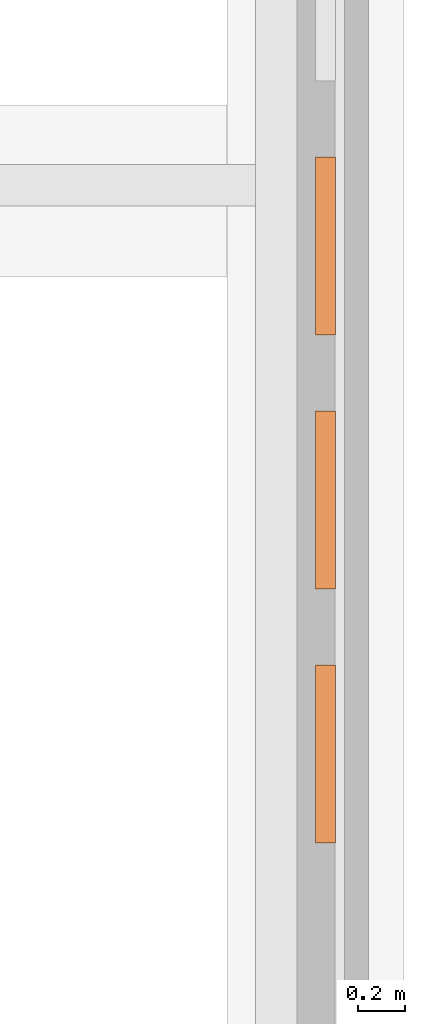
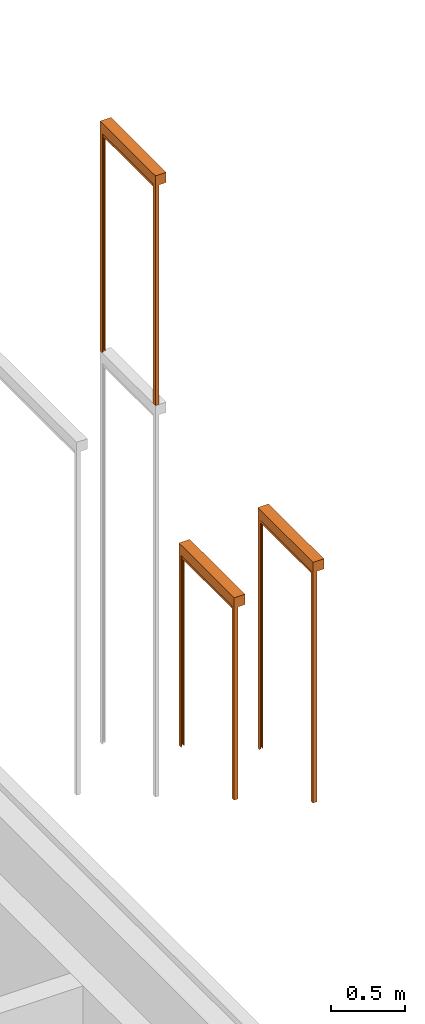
# One storey, part 14 of 15: 3 proxies.
"""IFC2X3 building model written with IfcOpenShell, lengths in millimetres."""

from ifc_helpers import new_model, entity, si_unit, converted_unit, derived_unit, direction, frame, frame_2d, origin, place, context, subcontext, project, spatial, polyline, circle_curve, parameter, trimmed, segment, composite_curve, rectangle, outline, extrude, source, transform, mapped, material, material_list, type_object, type_shapes, element, save


model = new_model("IFC2X3")

# Units and contexts
model_context = context("Model", 3, precision=0.01, world=origin(), true_north=direction((6.123031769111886e-17, 1.0)))
body_context = subcontext(model_context, "Body", "Model", "MODEL_VIEW")
ifc_project = project(units=[si_unit("LENGTHUNIT", "METRE", prefix="MILLI"), si_unit("AREAUNIT", "SQUARE_METRE"), si_unit("VOLUMEUNIT", "CUBIC_METRE"), converted_unit("PLANEANGLEUNIT", "DEGREE", entity("IfcRatioMeasure", 0.017453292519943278), si_unit("PLANEANGLEUNIT", "RADIAN"), dimensions=[0, 0, 0, 0, 0, 0, 0]), si_unit("MASSUNIT", "GRAM", prefix="KILO"), derived_unit("MASSDENSITYUNIT", [(si_unit("MASSUNIT", "GRAM", prefix="KILO"), 1), (si_unit("LENGTHUNIT", "METRE"), -3)]), derived_unit("IONCONCENTRATIONUNIT", [(si_unit("MASSUNIT", "GRAM", prefix="KILO"), 1), (si_unit("LENGTHUNIT", "METRE"), -3)]), derived_unit("MOMENTOFINERTIAUNIT", [(si_unit("LENGTHUNIT", "METRE"), 4)]), si_unit("TIMEUNIT", "SECOND"), si_unit("FREQUENCYUNIT", "HERTZ"), si_unit("THERMODYNAMICTEMPERATUREUNIT", "DEGREE_CELSIUS"), derived_unit("THERMALTRANSMITTANCEUNIT", [(si_unit("MASSUNIT", "GRAM", prefix="KILO"), 1), (si_unit("THERMODYNAMICTEMPERATUREUNIT", "KELVIN"), -1), (si_unit("TIMEUNIT", "SECOND"), -3)]), derived_unit("THERMALCONDUCTANCEUNIT", [(si_unit("MASSUNIT", "GRAM", prefix="KILO"), 1), (si_unit("THERMODYNAMICTEMPERATUREUNIT", "KELVIN"), -1), (si_unit("TIMEUNIT", "SECOND"), -3), (si_unit("LENGTHUNIT", "METRE"), 1)]), derived_unit("VOLUMETRICFLOWRATEUNIT", [(si_unit("LENGTHUNIT", "METRE"), 3), (si_unit("TIMEUNIT", "SECOND"), -1)]), derived_unit("MASSFLOWRATEUNIT", [(si_unit("MASSUNIT", "GRAM", prefix="KILO"), 1), (si_unit("TIMEUNIT", "SECOND"), -1)]), derived_unit("ROTATIONALFREQUENCYUNIT", [(si_unit("TIMEUNIT", "SECOND"), -1)]), si_unit("ELECTRICCURRENTUNIT", "AMPERE"), si_unit("ELECTRICVOLTAGEUNIT", "VOLT"), si_unit("POWERUNIT", "WATT"), si_unit("FORCEUNIT", "NEWTON", prefix="KILO"), si_unit("ILLUMINANCEUNIT", "LUX"), si_unit("LUMINOUSFLUXUNIT", "LUMEN"), si_unit("LUMINOUSINTENSITYUNIT", "CANDELA"), derived_unit("USERDEFINED", [(si_unit("MASSUNIT", "GRAM", prefix="KILO"), -1), (si_unit("LENGTHUNIT", "METRE"), -2), (si_unit("TIMEUNIT", "SECOND"), 3), (si_unit("LUMINOUSFLUXUNIT", "LUMEN"), 1)]), derived_unit("USERDEFINED", [(si_unit("MASSUNIT", "GRAM", prefix="KILO"), 1), (si_unit("TIMEUNIT", "SECOND"), -3), (si_unit("LENGTHUNIT", "METRE"), 3), (si_unit("ELECTRICCURRENTUNIT", "AMPERE"), -2)]), derived_unit("SOUNDPOWERUNIT", [(si_unit("MASSUNIT", "GRAM", prefix="KILO"), 1), (si_unit("TIMEUNIT", "SECOND"), -3), (si_unit("LENGTHUNIT", "METRE"), 2)]), derived_unit("SOUNDPRESSUREUNIT", [(si_unit("MASSUNIT", "GRAM", prefix="KILO"), 1), (si_unit("LENGTHUNIT", "METRE"), -1), (si_unit("TIMEUNIT", "SECOND"), -2)]), derived_unit("LINEARVELOCITYUNIT", [(si_unit("LENGTHUNIT", "METRE"), 1), (si_unit("TIMEUNIT", "SECOND"), -1)]), si_unit("PRESSUREUNIT", "PASCAL"), derived_unit("USERDEFINED", [(si_unit("MASSUNIT", "GRAM", prefix="KILO"), 1), (si_unit("LENGTHUNIT", "METRE"), -2), (si_unit("TIMEUNIT", "SECOND"), -2)]), derived_unit("LINEARFORCEUNIT", [(si_unit("MASSUNIT", "GRAM", prefix="KILO"), 1), (si_unit("TIMEUNIT", "SECOND"), -2)]), derived_unit("PLANARFORCEUNIT", [(si_unit("MASSUNIT", "GRAM", prefix="KILO"), 1), (si_unit("LENGTHUNIT", "METRE"), -1), (si_unit("TIMEUNIT", "SECOND"), -2)]), derived_unit("SPECIFICHEATCAPACITYUNIT", [(si_unit("THERMODYNAMICTEMPERATUREUNIT", "KELVIN"), -1), (si_unit("LENGTHUNIT", "METRE"), 2), (si_unit("TIMEUNIT", "SECOND"), -2)]), derived_unit("HEATINGVALUEUNIT", [(si_unit("LENGTHUNIT", "METRE"), 2), (si_unit("TIMEUNIT", "SECOND"), -2)]), derived_unit("VAPORPERMEABILITYUNIT", [(si_unit("LENGTHUNIT", "METRE"), -1), (si_unit("TIMEUNIT", "SECOND"), 1)]), derived_unit("DYNAMICVISCOSITYUNIT", [(si_unit("MASSUNIT", "GRAM", prefix="KILO"), 1), (si_unit("TIMEUNIT", "SECOND"), -1), (si_unit("LENGTHUNIT", "METRE"), -1)]), derived_unit("THERMALEXPANSIONCOEFFICIENTUNIT", [(si_unit("THERMODYNAMICTEMPERATUREUNIT", "KELVIN"), -1)]), derived_unit("MODULUSOFELASTICITYUNIT", [(si_unit("MASSUNIT", "GRAM", prefix="KILO"), 1), (si_unit("LENGTHUNIT", "METRE"), -1), (si_unit("TIMEUNIT", "SECOND"), -2)]), derived_unit("ISOTHERMALMOISTURECAPACITYUNIT", [(si_unit("LENGTHUNIT", "METRE"), 3), (si_unit("MASSUNIT", "GRAM", prefix="KILO"), -1)]), derived_unit("MOISTUREDIFFUSIVITYUNIT", [(si_unit("TIMEUNIT", "SECOND"), -1), (si_unit("LENGTHUNIT", "METRE"), 2)])], contexts=[model_context])

# Site, building, storey
site_placement = place(None, frame((0.0, 300.0, 0.0)))
site = spatial("IfcSite", under=ifc_project, at=site_placement, Name="<Kadastrale nummers>", CompositionType="ELEMENT")
building_placement = place(site_placement, origin())
building = spatial("IfcBuilding", under=site, at=building_placement, CompositionType="ELEMENT")
storey_placement = place(building_placement, frame((0.0, 0.0, -1570.0)))
storey = spatial("IfcBuildingStorey", under=building, at=storey_placement, Name="-1 fundering", CompositionType="ELEMENT", Elevation=-1570.0)

# Proxies
ifc_material_1 = material(Name="STAAL_RAL 7006")
ifc_material_2 = material(Name="<Unnamed>")
ifc_material_list = material_list([ifc_material_1, ifc_material_2])
building_element_proxy_type_1 = type_object("IfcBuildingElementProxyType", Name="31_DAT_Screen_zonwering_bak85:31_DAT_Screen_zonwering_bak85", PredefinedType="NOTDEFINED", material=ifc_material_list)
shared_shape_1 = source(origin(), body_context, "Body", "SweptSolid", [
    extrude(outline(polyline([(-60.69864841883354, -53.573897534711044), (20.695945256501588, -53.573897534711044), (20.695945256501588, 1.1216926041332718), (22.501351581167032, 1.1216926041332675), (22.501351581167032, 24.626102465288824), (17.501351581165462, 24.626102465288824), (17.501351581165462, 27.826102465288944), (-60.69864841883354, 27.826102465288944), (-60.69864841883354, -53.573897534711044)])), frame((748.0, -29.62610246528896, 3177.501351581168), z_axis=(1.0, 0.0, 0.0), x_axis=(0.0, 0.0, -1.0)), (0.0, 0.0, 1.0), 1.9999999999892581),
    extrude(outline(polyline([(-55.83243227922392, -51.08259835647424), (29.167567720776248, -51.08259835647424), (29.167567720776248, 5.412991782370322), (27.362161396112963, 5.412991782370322), (27.362161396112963, -49.28259835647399), (-54.03243227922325, -49.28259835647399), (-54.03243227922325, 32.117401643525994), (24.1675677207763, 32.117401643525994), (24.1675677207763, 28.91740164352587), (29.167567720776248, 28.91740164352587), (29.167567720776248, 33.917401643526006), (-55.83243227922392, 33.917401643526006), (-55.83243227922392, -51.08259835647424)])), frame((0.0, -33.917401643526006, 3184.1675677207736), z_axis=(1.0, 0.0, 0.0), x_axis=(0.0, 0.0, -1.0)), (0.0, 0.0, 1.0), 749.9999999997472),
    extrude(outline(polyline([(-60.69864841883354, -53.573897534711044), (20.695945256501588, -53.573897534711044), (20.695945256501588, 1.1216926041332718), (22.501351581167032, 1.1216926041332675), (22.501351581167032, 24.626102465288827), (17.501351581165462, 24.626102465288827), (17.501351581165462, 27.826102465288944), (-60.69864841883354, 27.826102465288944), (-60.69864841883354, -53.573897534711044)])), frame((0.0, -29.62610246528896, 3177.501351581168), z_axis=(1.0, 0.0, 0.0), x_axis=(0.0, 0.0, -1.0)), (0.0, 0.0, 1.0), 1.999999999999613),
    extrude(rectangle(XDim=709.9999999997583, YDim=1.163311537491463, at=frame_2d((-2.842170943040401e-14, -2.1094237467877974e-15), x_axis=(1.0, 0.0))), frame((375.0, -20.037293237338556, 3148.0091460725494)), (0.0, 0.0, 1.0), 6.990853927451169),
    extrude(outline(composite_curve([segment(polyline([(-7.502327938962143, -23.023758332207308), (7.497672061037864, -23.023758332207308)]), True, "CONTINUOUS"), segment(trimmed(circle_curve(frame_2d((7.497672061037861, -21.523758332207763), x_axis=(0.0, -1.0)), 1.4999999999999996), [parameter(359.99999999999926)], [parameter(90.00000000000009)], True, "PARAMETER"), True, "CONTINUOUS"), segment(polyline([(8.997672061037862, -21.523758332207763), (8.997672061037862, 8.976241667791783)]), True, "CONTINUOUS"), segment(trimmed(circle_curve(frame_2d((5.99767206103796, 8.976241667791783), x_axis=(0.0, -1.0)), 3.0), [parameter(90.00000000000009)], [parameter(172.84454900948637)], True, "PARAMETER"), True, "CONTINUOUS"), segment(polyline([(6.371357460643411, 11.952877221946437), (2.232090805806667, 12.470504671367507)]), True, "CONTINUOUS"), segment(trimmed(circle_curve(frame_2d((2.1399803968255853, 11.733933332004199), x_axis=(0.0, -1.0)), 0.7423083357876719), [parameter(172.87199730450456)], [parameter(323.5235343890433)], True, "PARAMETER"), True, "CONTINUOUS"), segment(trimmed(circle_curve(frame_2d((-0.0023279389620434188, 8.976241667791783), x_axis=(0.0, -1.0)), 2.75), [parameter(217.47327986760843)], [parameter(141.78969998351)], True, "PARAMETER"), False, "CONTINUOUS"), segment(trimmed(circle_curve(frame_2d((-2.144636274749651, 11.733933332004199), x_axis=(0.0, -1.0)), 0.7423083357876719), [parameter(39.207114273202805)], [parameter(187.12800269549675)], True, "PARAMETER"), True, "CONTINUOUS"), segment(polyline([(-2.2367466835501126, 12.470504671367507), (-6.376013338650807, 11.95287722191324)]), True, "CONTINUOUS"), segment(trimmed(circle_curve(frame_2d((-6.002327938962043, 8.976241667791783), x_axis=(0.0, -1.0)), 3.0), [parameter(187.1554509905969)], [parameter(269.9999999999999)], True, "PARAMETER"), True, "CONTINUOUS"), segment(polyline([(-9.002327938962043, 8.976241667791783), (-9.002327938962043, -21.523758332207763)]), True, "CONTINUOUS"), segment(trimmed(circle_curve(frame_2d((-7.502327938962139, -21.523758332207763), x_axis=(0.0, -1.0)), 1.5000000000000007), [parameter(269.9999999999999)], [parameter(359.9999999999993)], True, "PARAMETER"), True, "CONTINUOUS")], self_intersect=False)), frame((20.0, -19.997672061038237, 3141.0329044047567), z_axis=(1.0, 0.0, 0.0), x_axis=(0.0, 1.0, 0.0)), (0.0, 0.0, 1.0), 709.999999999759),
    extrude(outline(polyline([(-14.638298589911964, -16.23157441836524), (-13.138298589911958, -16.23157441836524), (-13.138298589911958, 12.23272922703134), (-6.116685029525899, 12.23272922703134), (-6.116685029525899, -6.231574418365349), (-1.116685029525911, -6.231574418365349), (-1.116685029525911, -4.769580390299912), (-4.579546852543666, -4.769580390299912), (-4.579546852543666, 12.232729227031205), (13.86611127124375, 12.232729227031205), (13.86611127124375, -4.769580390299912), (10.36170141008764, -4.769580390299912), (10.36170141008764, -6.2315744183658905), (15.36170141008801, -6.2315744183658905), (15.36170141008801, 13.768425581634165), (-14.638298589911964, 13.768425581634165), (-14.638298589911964, -16.23157441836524)])), frame((736.2315744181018, -14.638298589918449, 1335.0), z_axis=(0.0, 0.0, 1.0), x_axis=(0.0, -1.0, 0.0)), (0.0, 0.0, 1.0), 1820.0000000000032),
    extrude(outline(polyline([(-16.231574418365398, -14.638298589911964), (13.768425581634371, -14.638298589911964), (13.76842558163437, 15.361701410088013), (-6.231574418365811, 15.361701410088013), (-6.231574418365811, 10.361701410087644), (-4.769580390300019, 10.361701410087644), (-4.769580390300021, 13.866111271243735), (12.2327292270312, 13.866111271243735), (12.2327292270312, -4.57954685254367), (-4.769580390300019, -4.57954685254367), (-4.769580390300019, -1.1166850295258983), (-6.231574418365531, -1.1166850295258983), (-6.231574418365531, -6.116685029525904), (12.232729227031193, -6.116685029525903), (12.232729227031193, -13.138298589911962), (-16.231574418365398, -13.138298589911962), (-16.231574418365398, -14.638298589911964)])), frame((13.768425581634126, -14.638298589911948, 1335.0), z_axis=(0.0, 0.0, 1.0), x_axis=(-1.0, 0.0, 0.0)), (0.0, 0.0, 1.0), 1820.0000000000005),
])
type_shapes(building_element_proxy_type_1, [shared_shape_1])
proxy_1_placement = place(storey_placement, frame((48751.0, 37480.0, 4815.0), z_axis=(0.0, 0.0, 1.0), x_axis=(0.0, 1.0, 0.0)))
element("IfcBuildingElementProxy", 1, at=proxy_1_placement, inside=storey, type_object=building_element_proxy_type_1, material=ifc_material_list, Name="31_DAT_Screen_zonwering_bak85:31_DAT_Screen_zonwering_bak85", ObjectType="31_DAT_Screen_zonwering_bak85:31_DAT_Screen_zonwering_bak85", context=body_context, shape_type="MappedRepresentation", body=[
    mapped(shared_shape_1, transform((0.0, 0.0, 0.0), scale=1.0)),
])
building_element_proxy_type_2 = type_object("IfcBuildingElementProxyType", Name="31_DAT_Screen_zonwering_bak85:31_DAT_Screen_zonwering_bak85", PredefinedType="NOTDEFINED", material=ifc_material_list)
shared_shape_2 = source(origin(), body_context, "Body", "SweptSolid", [
    extrude(outline(polyline([(-60.69864841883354, -53.573897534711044), (20.695945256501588, -53.573897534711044), (20.695945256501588, 1.1216926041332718), (22.501351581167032, 1.1216926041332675), (22.501351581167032, 24.626102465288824), (17.501351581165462, 24.626102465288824), (17.501351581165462, 27.826102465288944), (-60.69864841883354, 27.826102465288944), (-60.69864841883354, -53.573897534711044)])), frame((748.0, -29.62610246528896, 3574.5013515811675), z_axis=(1.0, 0.0, 0.0), x_axis=(0.0, 0.0, -1.0)), (0.0, 0.0, 1.0), 1.9999999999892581),
    extrude(outline(polyline([(-55.83243227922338, -51.08259835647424), (29.167567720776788, -51.08259835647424), (29.167567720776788, 5.412991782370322), (27.362161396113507, 5.412991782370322), (27.362161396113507, -49.28259835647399), (-54.032432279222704, -49.28259835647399), (-54.032432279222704, 32.117401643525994), (24.16756772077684, 32.117401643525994), (24.16756772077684, 28.91740164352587), (29.167567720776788, 28.91740164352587), (29.167567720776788, 33.917401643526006), (-55.83243227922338, 33.917401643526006), (-55.83243227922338, -51.08259835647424)])), frame((0.0, -33.917401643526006, 3581.167567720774), z_axis=(1.0, 0.0, 0.0), x_axis=(0.0, 0.0, -1.0)), (0.0, 0.0, 1.0), 750.0000000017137),
    extrude(outline(polyline([(-60.69864841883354, -53.573897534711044), (20.695945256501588, -53.573897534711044), (20.695945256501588, 1.1216926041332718), (22.501351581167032, 1.1216926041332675), (22.501351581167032, 24.626102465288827), (17.501351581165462, 24.626102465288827), (17.501351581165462, 27.826102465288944), (-60.69864841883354, 27.826102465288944), (-60.69864841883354, -53.573897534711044)])), frame((0.0, -29.62610246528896, 3574.5013515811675), z_axis=(1.0, 0.0, 0.0), x_axis=(0.0, 0.0, -1.0)), (0.0, 0.0, 1.0), 1.999999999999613),
    extrude(rectangle(XDim=710.0000000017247, YDim=1.163311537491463, at=frame_2d((-5.684341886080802e-14, -2.1094237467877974e-15), x_axis=(1.0, 0.0))), frame((375.0, -20.037293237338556, 3545.8)), (0.0, 0.0, 1.0), 6.200000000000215),
    extrude(outline(composite_curve([segment(polyline([(-7.502327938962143, -23.023758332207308), (7.497672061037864, -23.023758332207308)]), True, "CONTINUOUS"), segment(trimmed(circle_curve(frame_2d((7.497672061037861, -21.523758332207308), x_axis=(0.0, -1.0)), 1.4999999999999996), [parameter(359.99999999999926)], [parameter(90.00000000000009)], True, "PARAMETER"), True, "CONTINUOUS"), segment(polyline([(8.997672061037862, -21.523758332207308), (8.997672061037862, 8.976241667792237)]), True, "CONTINUOUS"), segment(trimmed(circle_curve(frame_2d((5.99767206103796, 8.976241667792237), x_axis=(0.0, -1.0)), 3.0), [parameter(90.00000000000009)], [parameter(172.84454900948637)], True, "PARAMETER"), True, "CONTINUOUS"), segment(polyline([(6.371357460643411, 11.952877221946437), (2.232090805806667, 12.470504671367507)]), True, "CONTINUOUS"), segment(trimmed(circle_curve(frame_2d((2.1399803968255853, 11.733933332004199), x_axis=(0.0, -1.0)), 0.7423083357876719), [parameter(172.87199730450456)], [parameter(323.5235343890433)], True, "PARAMETER"), True, "CONTINUOUS"), segment(trimmed(circle_curve(frame_2d((-0.0023279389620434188, 8.976241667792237), x_axis=(0.0, -1.0)), 2.75), [parameter(217.47327986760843)], [parameter(141.78969998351)], True, "PARAMETER"), False, "CONTINUOUS"), segment(trimmed(circle_curve(frame_2d((-2.144636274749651, 11.733933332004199), x_axis=(0.0, -1.0)), 0.7423083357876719), [parameter(39.207114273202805)], [parameter(187.12800269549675)], True, "PARAMETER"), True, "CONTINUOUS"), segment(polyline([(-2.2367466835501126, 12.470504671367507), (-6.376013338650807, 11.95287722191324)]), True, "CONTINUOUS"), segment(trimmed(circle_curve(frame_2d((-6.002327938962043, 8.976241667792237), x_axis=(0.0, -1.0)), 3.0), [parameter(187.1554509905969)], [parameter(269.9999999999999)], True, "PARAMETER"), True, "CONTINUOUS"), segment(polyline([(-9.002327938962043, 8.976241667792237), (-9.002327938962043, -21.523758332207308)]), True, "CONTINUOUS"), segment(trimmed(circle_curve(frame_2d((-7.502327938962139, -21.523758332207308), x_axis=(0.0, -1.0)), 1.5000000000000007), [parameter(269.9999999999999)], [parameter(359.9999999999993)], True, "PARAMETER"), True, "CONTINUOUS")], self_intersect=False)), frame((20.0, -19.997672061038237, 3538.823758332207), z_axis=(1.0, 0.0, 0.0), x_axis=(0.0, 1.0, 0.0)), (0.0, 0.0, 1.0), 710.0000000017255),
    extrude(outline(polyline([(-14.638298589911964, -16.23157441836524), (-13.138298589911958, -16.23157441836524), (-13.138298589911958, 12.23272922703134), (-6.116685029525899, 12.23272922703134), (-6.116685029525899, -6.231574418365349), (-1.116685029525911, -6.231574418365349), (-1.116685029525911, -4.769580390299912), (-4.579546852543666, -4.769580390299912), (-4.579546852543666, 12.232729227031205), (13.86611127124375, 12.232729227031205), (13.86611127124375, -4.769580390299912), (10.36170141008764, -4.769580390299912), (10.36170141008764, -6.2315744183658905), (15.36170141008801, -6.2315744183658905), (15.36170141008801, 13.768425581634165), (-14.638298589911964, 13.768425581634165), (-14.638298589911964, -16.23157441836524)])), frame((736.2315744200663, -14.638298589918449, 1960.0), z_axis=(0.0, 0.0, 1.0), x_axis=(0.0, -1.0, 0.0)), (0.0, 0.0, 1.0), 1592.0000000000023),
    extrude(outline(polyline([(-16.231574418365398, -14.638298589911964), (13.768425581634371, -14.638298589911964), (13.76842558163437, 15.361701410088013), (-6.231574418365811, 15.361701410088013), (-6.231574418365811, 10.361701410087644), (-4.769580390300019, 10.361701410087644), (-4.769580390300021, 13.866111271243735), (12.2327292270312, 13.866111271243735), (12.2327292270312, -4.57954685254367), (-4.769580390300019, -4.57954685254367), (-4.769580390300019, -1.1166850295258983), (-6.231574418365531, -1.1166850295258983), (-6.231574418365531, -6.116685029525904), (12.232729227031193, -6.116685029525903), (12.232729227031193, -13.138298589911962), (-16.231574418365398, -13.138298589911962), (-16.231574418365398, -14.638298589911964)])), frame((13.768425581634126, -14.638298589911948, 1960.0), z_axis=(0.0, 0.0, 1.0), x_axis=(-1.0, 0.0, 0.0)), (0.0, 0.0, 1.0), 1591.9999999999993),
])
type_shapes(building_element_proxy_type_2, [shared_shape_2])
proxy_2_placement = place(storey_placement, frame((48751.0, 36410.0, 1570.0), z_axis=(0.0, 0.0, 1.0), x_axis=(0.0, 1.0, 0.0)))
element("IfcBuildingElementProxy", 2, at=proxy_2_placement, inside=storey, type_object=building_element_proxy_type_2, material=ifc_material_list, Name="31_DAT_Screen_zonwering_bak85:31_DAT_Screen_zonwering_bak85", ObjectType="31_DAT_Screen_zonwering_bak85:31_DAT_Screen_zonwering_bak85", context=body_context, shape_type="MappedRepresentation", body=[
    mapped(shared_shape_2, transform((0.0, 0.0, 0.0), scale=1.0)),
])
building_element_proxy_type_3 = type_object("IfcBuildingElementProxyType", Name="31_DAT_Screen_zonwering_bak85:31_DAT_Screen_zonwering_bak85", PredefinedType="NOTDEFINED", material=ifc_material_list)
shared_shape_3 = source(origin(), body_context, "Body", "SweptSolid", [
    extrude(outline(polyline([(-60.698648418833, -53.573897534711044), (20.695945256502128, -53.573897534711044), (20.695945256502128, 1.1216926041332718), (22.501351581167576, 1.1216926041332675), (22.501351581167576, 24.626102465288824), (17.501351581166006, 24.626102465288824), (17.501351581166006, 27.826102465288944), (-60.698648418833, 27.826102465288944), (-60.698648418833, -53.573897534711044)])), frame((748.0, -29.62610246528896, 4517.501351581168), z_axis=(1.0, 0.0, 0.0), x_axis=(0.0, 0.0, -1.0)), (0.0, 0.0, 1.0), 1.9999999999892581),
    extrude(outline(polyline([(-55.832432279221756, -51.08259835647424), (29.16756772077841, -51.08259835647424), (29.16756772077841, 5.412991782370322), (27.36216139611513, 5.412991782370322), (27.36216139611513, -49.28259835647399), (-54.032432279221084, -49.28259835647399), (-54.032432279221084, 32.117401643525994), (24.167567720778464, 32.117401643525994), (24.167567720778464, 28.91740164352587), (29.16756772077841, 28.91740164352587), (29.16756772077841, 33.917401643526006), (-55.832432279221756, 33.917401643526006), (-55.832432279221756, -51.08259835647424)])), frame((0.0, -33.917401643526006, 4524.167567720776), z_axis=(1.0, 0.0, 0.0), x_axis=(0.0, 0.0, -1.0)), (0.0, 0.0, 1.0), 749.9999999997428),
    extrude(outline(polyline([(-60.698648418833, -53.573897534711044), (20.695945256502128, -53.573897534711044), (20.695945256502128, 1.1216926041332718), (22.501351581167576, 1.1216926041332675), (22.501351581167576, 24.626102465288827), (17.501351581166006, 24.626102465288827), (17.501351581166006, 27.826102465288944), (-60.698648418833, 27.826102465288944), (-60.698648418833, -53.573897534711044)])), frame((0.0, -29.62610246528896, 4517.501351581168), z_axis=(1.0, 0.0, 0.0), x_axis=(0.0, 0.0, -1.0)), (0.0, 0.0, 1.0), 1.999999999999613),
    extrude(rectangle(XDim=709.999999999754, YDim=1.163311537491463, at=frame_2d((-2.842170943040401e-14, -2.1094237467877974e-15), x_axis=(1.0, 0.0))), frame((375.0, -20.037293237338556, 4489.374527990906)), (0.0, 0.0, 1.0), 5.625472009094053),
    extrude(outline(composite_curve([segment(polyline([(-7.502327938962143, -23.023758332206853), (7.497672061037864, -23.023758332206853)]), True, "CONTINUOUS"), segment(trimmed(circle_curve(frame_2d((7.497672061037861, -21.523758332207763), x_axis=(0.0, -1.0)), 1.4999999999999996), [parameter(359.99999999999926)], [parameter(90.00000000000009)], True, "PARAMETER"), True, "CONTINUOUS"), segment(polyline([(8.997672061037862, -21.523758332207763), (8.997672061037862, 8.976241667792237)]), True, "CONTINUOUS"), segment(trimmed(circle_curve(frame_2d((5.99767206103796, 8.976241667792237), x_axis=(0.0, -1.0)), 3.0), [parameter(90.00000000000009)], [parameter(172.84454900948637)], True, "PARAMETER"), True, "CONTINUOUS"), segment(polyline([(6.371357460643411, 11.952877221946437), (2.232090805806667, 12.470504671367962)]), True, "CONTINUOUS"), segment(trimmed(circle_curve(frame_2d((2.1399803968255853, 11.733933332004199), x_axis=(0.0, -1.0)), 0.7423083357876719), [parameter(172.87199730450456)], [parameter(323.5235343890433)], True, "PARAMETER"), True, "CONTINUOUS"), segment(trimmed(circle_curve(frame_2d((-0.0023279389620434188, 8.976241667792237), x_axis=(0.0, -1.0)), 2.75), [parameter(217.47327986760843)], [parameter(141.78969998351)], True, "PARAMETER"), False, "CONTINUOUS"), segment(trimmed(circle_curve(frame_2d((-2.144636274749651, 11.733933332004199), x_axis=(0.0, -1.0)), 0.7423083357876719), [parameter(39.207114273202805)], [parameter(187.12800269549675)], True, "PARAMETER"), True, "CONTINUOUS"), segment(polyline([(-2.2367466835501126, 12.470504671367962), (-6.376013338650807, 11.952877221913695)]), True, "CONTINUOUS"), segment(trimmed(circle_curve(frame_2d((-6.002327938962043, 8.976241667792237), x_axis=(0.0, -1.0)), 3.0), [parameter(187.1554509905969)], [parameter(269.9999999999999)], True, "PARAMETER"), True, "CONTINUOUS"), segment(polyline([(-9.002327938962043, 8.976241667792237), (-9.002327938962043, -21.523758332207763)]), True, "CONTINUOUS"), segment(trimmed(circle_curve(frame_2d((-7.502327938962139, -21.523758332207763), x_axis=(0.0, -1.0)), 1.5000000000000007), [parameter(269.9999999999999)], [parameter(359.9999999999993)], True, "PARAMETER"), True, "CONTINUOUS")], self_intersect=False)), frame((20.0, -19.997672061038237, 4482.398286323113), z_axis=(1.0, 0.0, 0.0), x_axis=(0.0, 1.0, 0.0)), (0.0, 0.0, 1.0), 709.9999999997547),
    extrude(outline(polyline([(-14.638298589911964, -16.23157441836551), (-13.138298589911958, -16.23157441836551), (-13.138298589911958, 12.23272922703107), (-6.116685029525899, 12.23272922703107), (-6.116685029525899, -6.23157441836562), (-1.116685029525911, -6.23157441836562), (-1.116685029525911, -4.769580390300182), (-4.579546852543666, -4.769580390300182), (-4.579546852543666, 12.232729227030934), (13.86611127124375, 12.232729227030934), (13.86611127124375, -4.769580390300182), (10.36170141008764, -4.769580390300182), (10.36170141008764, -6.231574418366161), (15.36170141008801, -6.231574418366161), (15.36170141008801, 13.768425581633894), (-14.638298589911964, 13.768425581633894), (-14.638298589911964, -16.23157441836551)])), frame((736.2315744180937, -14.638298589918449, 2585.0), z_axis=(0.0, 0.0, 1.0), x_axis=(0.0, -1.0, 0.0)), (0.0, 0.0, 1.0), 1910.0000000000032),
    extrude(outline(polyline([(-16.231574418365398, -14.638298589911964), (13.768425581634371, -14.638298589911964), (13.76842558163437, 15.361701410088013), (-6.231574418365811, 15.361701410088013), (-6.231574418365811, 10.361701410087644), (-4.769580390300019, 10.361701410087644), (-4.769580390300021, 13.866111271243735), (12.2327292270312, 13.866111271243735), (12.2327292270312, -4.57954685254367), (-4.769580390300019, -4.57954685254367), (-4.769580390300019, -1.1166850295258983), (-6.231574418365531, -1.1166850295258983), (-6.231574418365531, -6.116685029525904), (12.232729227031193, -6.116685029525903), (12.232729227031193, -13.138298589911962), (-16.231574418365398, -13.138298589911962), (-16.231574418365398, -14.638298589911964)])), frame((13.768425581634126, -14.638298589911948, 2585.0), z_axis=(0.0, 0.0, 1.0), x_axis=(-1.0, 0.0, 0.0)), (0.0, 0.0, 1.0), 1910.0000000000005),
])
type_shapes(building_element_proxy_type_3, [shared_shape_3])
proxy_3_placement = place(storey_placement, frame((48751.0, 35340.0, 1570.0), z_axis=(0.0, 0.0, 1.0), x_axis=(0.0, 1.0, 0.0)))
element("IfcBuildingElementProxy", 3, at=proxy_3_placement, inside=storey, type_object=building_element_proxy_type_3, material=ifc_material_list, Name="31_DAT_Screen_zonwering_bak85:31_DAT_Screen_zonwering_bak85", ObjectType="31_DAT_Screen_zonwering_bak85:31_DAT_Screen_zonwering_bak85", context=body_context, shape_type="MappedRepresentation", body=[
    mapped(shared_shape_3, transform((0.0, 0.0, 0.0), scale=1.0)),
])

save(model, "model.ifc")
